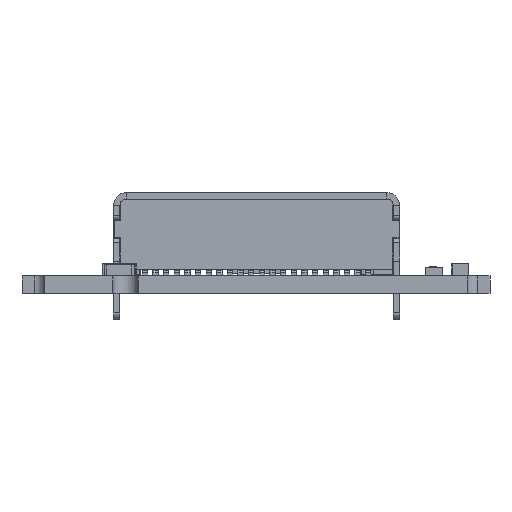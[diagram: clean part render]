
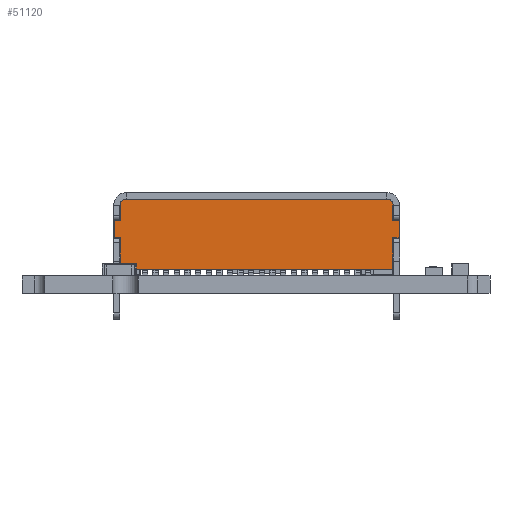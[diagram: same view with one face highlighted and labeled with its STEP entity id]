
A CAD part, front view. The second image highlights one B-rep face of the part: STEP entity #51120.
In plain terms, the highlighted planar face has unit normal (0, -1, 0) as drawn and (0, 0, -1) by its records, which use the part's own axes.
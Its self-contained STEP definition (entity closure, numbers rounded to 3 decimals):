
#31806 = VERTEX_POINT('',#31807);
#31807 = CARTESIAN_POINT('',(6.7,-0.4,-4.7));
#31813 = EDGE_CURVE('',#31814,#31806,#31816,.T.);
#31814 = VERTEX_POINT('',#31815);
#31815 = CARTESIAN_POINT('',(6.7,0.4,-4.7));
#31816 = LINE('',#31817,#31818);
#31817 = CARTESIAN_POINT('',(6.7,0.4,-4.7));
#31818 = VECTOR('',#31819,1.);
#31819 = DIRECTION('',(0.,-1.,0.));
#31844 = EDGE_CURVE('',#31845,#31814,#31847,.T.);
#31845 = VERTEX_POINT('',#31846);
#31846 = CARTESIAN_POINT('',(6.4,0.4,-4.7));
#31847 = LINE('',#31848,#31849);
#31848 = CARTESIAN_POINT('',(6.4,0.4,-4.7));
#31849 = VECTOR('',#31850,1.);
#31850 = DIRECTION('',(1.,0.,0.));
#31947 = VERTEX_POINT('',#31948);
#31948 = CARTESIAN_POINT('',(6.4,-0.4,-4.7));
#31954 = EDGE_CURVE('',#31806,#31947,#31955,.T.);
#31955 = LINE('',#31956,#31957);
#31956 = CARTESIAN_POINT('',(6.7,-0.4,-4.7));
#31957 = VECTOR('',#31958,1.);
#31958 = DIRECTION('',(-1.,0.,0.));
#32013 = VERTEX_POINT('',#32014);
#32014 = CARTESIAN_POINT('',(-6.4,0.4,-4.7));
#32020 = EDGE_CURVE('',#32013,#32021,#32023,.T.);
#32021 = VERTEX_POINT('',#32022);
#32022 = CARTESIAN_POINT('',(-6.7,0.4,-4.7));
#32023 = LINE('',#32024,#32025);
#32024 = CARTESIAN_POINT('',(-6.4,0.4,-4.7));
#32025 = VECTOR('',#32026,1.);
#32026 = DIRECTION('',(-1.,0.,0.));
#32073 = EDGE_CURVE('',#32021,#32074,#32076,.T.);
#32074 = VERTEX_POINT('',#32075);
#32075 = CARTESIAN_POINT('',(-6.7,-0.4,-4.7));
#32076 = LINE('',#32077,#32078);
#32077 = CARTESIAN_POINT('',(-6.7,0.4,-4.7));
#32078 = VECTOR('',#32079,1.);
#32079 = DIRECTION('',(0.,-1.,0.));
#32130 = EDGE_CURVE('',#32074,#32131,#32133,.T.);
#32131 = VERTEX_POINT('',#32132);
#32132 = CARTESIAN_POINT('',(-6.4,-0.4,-4.7));
#32133 = LINE('',#32134,#32135);
#32134 = CARTESIAN_POINT('',(-6.7,-0.4,-4.7));
#32135 = VECTOR('',#32136,1.);
#32136 = DIRECTION('',(1.,0.,0.));
#46986 = VERTEX_POINT('',#46987);
#46987 = CARTESIAN_POINT('',(6.4,-1.885,-4.7));
#47024 = VERTEX_POINT('',#47025);
#47025 = CARTESIAN_POINT('',(-6.4,-1.885,-4.7));
#47031 = EDGE_CURVE('',#47024,#46986,#47032,.T.);
#47032 = LINE('',#47033,#47034);
#47033 = CARTESIAN_POINT('',(-6.4,-1.885,-4.7));
#47034 = VECTOR('',#47035,1.);
#47035 = DIRECTION('',(1.,0.,0.));
#49510 = EDGE_CURVE('',#32013,#49511,#49513,.T.);
#49511 = VERTEX_POINT('',#49512);
#49512 = CARTESIAN_POINT('',(-6.4,1.235,-4.7));
#49513 = LINE('',#49514,#49515);
#49514 = CARTESIAN_POINT('',(-6.4,0.4,-4.7));
#49515 = VECTOR('',#49516,1.);
#49516 = DIRECTION('',(0.,1.,0.));
#49523 = EDGE_CURVE('',#47024,#32131,#49524,.T.);
#49524 = LINE('',#49525,#49526);
#49525 = CARTESIAN_POINT('',(-6.4,-1.885,-4.7));
#49526 = VECTOR('',#49527,1.);
#49527 = DIRECTION('',(0.,1.,0.));
#51084 = EDGE_CURVE('',#51085,#51087,#51089,.T.);
#51085 = VERTEX_POINT('',#51086);
#51086 = CARTESIAN_POINT('',(-6.219,1.4,-4.7));
#51087 = VERTEX_POINT('',#51088);
#51088 = CARTESIAN_POINT('',(6.219,1.4,-4.7));
#51089 = LINE('',#51090,#51091);
#51090 = CARTESIAN_POINT('',(-6.219,1.4,-4.7));
#51091 = VECTOR('',#51092,1.);
#51092 = DIRECTION('',(1.,0.,0.));
#51120 = ADVANCED_FACE('',(#51121),#51161,.F.);
#51121 = FACE_BOUND('',#51122,.T.);
#51122 = EDGE_LOOP('',(#51123,#51131,#51132,#51133,#51134,#51140,#51141,
    #51142,#51143,#51144,#51145,#51146,#51153,#51154));
#51123 = ORIENTED_EDGE('',*,*,#51124,.T.);
#51124 = EDGE_CURVE('',#51125,#31845,#51127,.T.);
#51125 = VERTEX_POINT('',#51126);
#51126 = CARTESIAN_POINT('',(6.4,1.235,-4.7));
#51127 = LINE('',#51128,#51129);
#51128 = CARTESIAN_POINT('',(6.4,1.235,-4.7));
#51129 = VECTOR('',#51130,1.);
#51130 = DIRECTION('',(0.,-1.,0.));
#51131 = ORIENTED_EDGE('',*,*,#31844,.T.);
#51132 = ORIENTED_EDGE('',*,*,#31813,.T.);
#51133 = ORIENTED_EDGE('',*,*,#31954,.T.);
#51134 = ORIENTED_EDGE('',*,*,#51135,.T.);
#51135 = EDGE_CURVE('',#31947,#46986,#51136,.T.);
#51136 = LINE('',#51137,#51138);
#51137 = CARTESIAN_POINT('',(6.4,-0.4,-4.7));
#51138 = VECTOR('',#51139,1.);
#51139 = DIRECTION('',(0.,-1.,0.));
#51140 = ORIENTED_EDGE('',*,*,#47031,.F.);
#51141 = ORIENTED_EDGE('',*,*,#49523,.T.);
#51142 = ORIENTED_EDGE('',*,*,#32130,.F.);
#51143 = ORIENTED_EDGE('',*,*,#32073,.F.);
#51144 = ORIENTED_EDGE('',*,*,#32020,.F.);
#51145 = ORIENTED_EDGE('',*,*,#49510,.T.);
#51146 = ORIENTED_EDGE('',*,*,#51147,.F.);
#51147 = EDGE_CURVE('',#51085,#49511,#51148,.T.);
#51148 = CIRCLE('',#51149,0.3);
#51149 = AXIS2_PLACEMENT_3D('',#51150,#51151,#51152);
#51150 = CARTESIAN_POINT('',(-6.125,1.115,-4.7));
#51151 = DIRECTION('',(0.,0.,1.));
#51152 = DIRECTION('',(-0.312,0.95,0.));
#51153 = ORIENTED_EDGE('',*,*,#51084,.T.);
#51154 = ORIENTED_EDGE('',*,*,#51155,.F.);
#51155 = EDGE_CURVE('',#51125,#51087,#51156,.T.);
#51156 = CIRCLE('',#51157,0.3);
#51157 = AXIS2_PLACEMENT_3D('',#51158,#51159,#51160);
#51158 = CARTESIAN_POINT('',(6.125,1.115,-4.7));
#51159 = DIRECTION('',(0.,0.,1.));
#51160 = DIRECTION('',(0.917,0.4,-0.));
#51161 = PLANE('',#51162);
#51162 = AXIS2_PLACEMENT_3D('',#51163,#51164,#51165);
#51163 = CARTESIAN_POINT('',(0.,-0.243,-4.7));
#51164 = DIRECTION('',(0.,0.,1.));
#51165 = DIRECTION('',(1.,0.,-0.));
